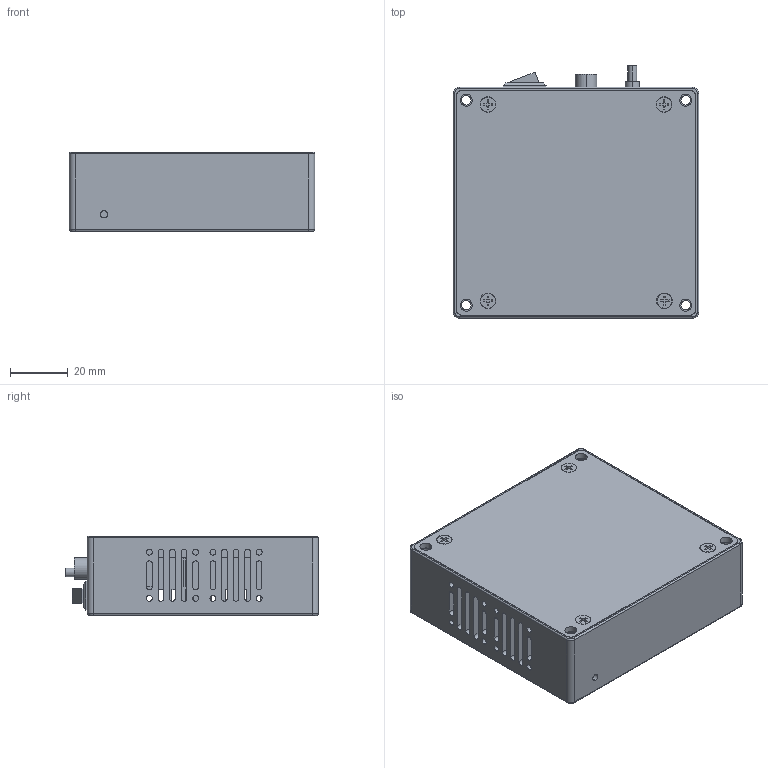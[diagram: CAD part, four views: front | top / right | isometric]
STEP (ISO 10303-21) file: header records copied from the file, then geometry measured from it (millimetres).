
FILE_DESCRIPTION (( 'STEP AP203' ), '1' );
FILE_NAME ('E53.A1K-H.STEP', '2025-04-16T01:29:56', ( 'China' ), ( 'Home' ), 'SwSTEP 2.0', 'SolidWorks 2016', '' );
FILE_SCHEMA (( 'CONFIG_CONTROL_DESIGN' ));
Length unit declared in the file: millimetre
Products named in the file (1): E53.A1K-H
Bounding box: 85 x 87.49 x 27.5 mm (x, y, z)
Surface area: 37527.8 mm2 (no closed solid volume)
Topology: 0 solids, 13 shells, 329 faces, 1067 edges, 744 vertices
Faces by surface type: cylinder 161, plane 149, torus 8, cone 8, sphere 3
Entity records: 11860 total; most frequent: CARTESIAN_POINT 2188, DIRECTION 2108, ORIENTED_EDGE 1797, EDGE_CURVE 1058, VERTEX_POINT 738, AXIS2_PLACEMENT_3D 728, VECTOR 652, LINE 652
